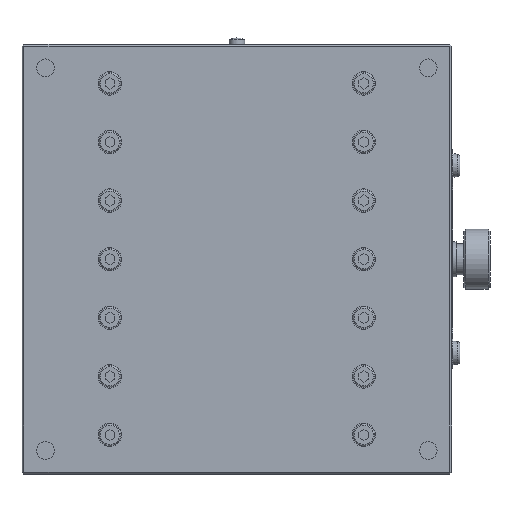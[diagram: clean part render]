
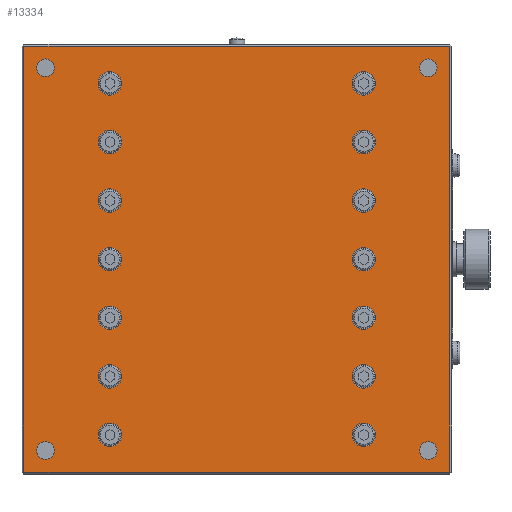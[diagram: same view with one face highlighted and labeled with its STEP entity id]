
A CAD part, front view. The second image highlights one B-rep face of the part: STEP entity #13334.
In plain terms, the highlighted planar face has unit normal (0, -1, 0).
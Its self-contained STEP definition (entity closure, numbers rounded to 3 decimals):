
#407=LINE('',#19798,#1792);
#408=LINE('',#19801,#1793);
#409=LINE('',#19803,#1794);
#410=LINE('',#19805,#1795);
#1792=VECTOR('',#15717,1000.);
#1793=VECTOR('',#15718,1000.);
#1794=VECTOR('',#15719,1000.);
#1795=VECTOR('',#15720,1000.);
#3194=ORIENTED_EDGE('',*,*,#6893,.T.);
#3195=ORIENTED_EDGE('',*,*,#6894,.T.);
#3196=ORIENTED_EDGE('',*,*,#6895,.T.);
#3197=ORIENTED_EDGE('',*,*,#6896,.T.);
#3198=ORIENTED_EDGE('',*,*,#6897,.F.);
#3199=ORIENTED_EDGE('',*,*,#6898,.F.);
#3200=ORIENTED_EDGE('',*,*,#6899,.F.);
#3201=ORIENTED_EDGE('',*,*,#6900,.F.);
#3202=ORIENTED_EDGE('',*,*,#6901,.F.);
#3203=ORIENTED_EDGE('',*,*,#6902,.F.);
#3204=ORIENTED_EDGE('',*,*,#6903,.F.);
#3205=ORIENTED_EDGE('',*,*,#6904,.F.);
#3206=ORIENTED_EDGE('',*,*,#6905,.F.);
#3207=ORIENTED_EDGE('',*,*,#6906,.F.);
#3208=ORIENTED_EDGE('',*,*,#6907,.F.);
#3209=ORIENTED_EDGE('',*,*,#6908,.F.);
#3210=ORIENTED_EDGE('',*,*,#6909,.F.);
#3211=ORIENTED_EDGE('',*,*,#6910,.F.);
#3212=ORIENTED_EDGE('',*,*,#6911,.F.);
#3213=ORIENTED_EDGE('',*,*,#6912,.F.);
#3214=ORIENTED_EDGE('',*,*,#6913,.F.);
#3215=ORIENTED_EDGE('',*,*,#6914,.F.);
#6893=EDGE_CURVE('',#8742,#8743,#407,.T.);
#6894=EDGE_CURVE('',#8743,#8744,#408,.T.);
#6895=EDGE_CURVE('',#8744,#8745,#409,.T.);
#6896=EDGE_CURVE('',#8745,#8742,#410,.T.);
#6897=EDGE_CURVE('',#8746,#8746,#9921,.T.);
#6898=EDGE_CURVE('',#8747,#8747,#9922,.T.);
#6899=EDGE_CURVE('',#8748,#8748,#9923,.T.);
#6900=EDGE_CURVE('',#8749,#8749,#9924,.T.);
#6901=EDGE_CURVE('',#8750,#8750,#9925,.T.);
#6902=EDGE_CURVE('',#8751,#8751,#9926,.T.);
#6903=EDGE_CURVE('',#8752,#8752,#9927,.T.);
#6904=EDGE_CURVE('',#8753,#8753,#9928,.T.);
#6905=EDGE_CURVE('',#8754,#8754,#9929,.T.);
#6906=EDGE_CURVE('',#8755,#8755,#9930,.T.);
#6907=EDGE_CURVE('',#8756,#8756,#9931,.T.);
#6908=EDGE_CURVE('',#8757,#8757,#9932,.T.);
#6909=EDGE_CURVE('',#8758,#8758,#9933,.T.);
#6910=EDGE_CURVE('',#8759,#8759,#9934,.T.);
#6911=EDGE_CURVE('',#8760,#8760,#9935,.T.);
#6912=EDGE_CURVE('',#8761,#8761,#9936,.T.);
#6913=EDGE_CURVE('',#8762,#8762,#9937,.T.);
#6914=EDGE_CURVE('',#8763,#8763,#9938,.T.);
#8742=VERTEX_POINT('',#19799);
#8743=VERTEX_POINT('',#19800);
#8744=VERTEX_POINT('',#19802);
#8745=VERTEX_POINT('',#19804);
#8746=VERTEX_POINT('',#19807);
#8747=VERTEX_POINT('',#19809);
#8748=VERTEX_POINT('',#19811);
#8749=VERTEX_POINT('',#19813);
#8750=VERTEX_POINT('',#19815);
#8751=VERTEX_POINT('',#19817);
#8752=VERTEX_POINT('',#19819);
#8753=VERTEX_POINT('',#19821);
#8754=VERTEX_POINT('',#19823);
#8755=VERTEX_POINT('',#19825);
#8756=VERTEX_POINT('',#19827);
#8757=VERTEX_POINT('',#19829);
#8758=VERTEX_POINT('',#19831);
#8759=VERTEX_POINT('',#19833);
#8760=VERTEX_POINT('',#19835);
#8761=VERTEX_POINT('',#19837);
#8762=VERTEX_POINT('',#19839);
#8763=VERTEX_POINT('',#19841);
#9921=CIRCLE('',#14256,2.25);
#9922=CIRCLE('',#14257,2.25);
#9923=CIRCLE('',#14258,2.25);
#9924=CIRCLE('',#14259,2.25);
#9925=CIRCLE('',#14260,3.);
#9926=CIRCLE('',#14261,3.);
#9927=CIRCLE('',#14262,3.);
#9928=CIRCLE('',#14263,3.);
#9929=CIRCLE('',#14264,3.);
#9930=CIRCLE('',#14265,3.);
#9931=CIRCLE('',#14266,3.);
#9932=CIRCLE('',#14267,3.);
#9933=CIRCLE('',#14268,3.);
#9934=CIRCLE('',#14269,3.);
#9935=CIRCLE('',#14270,3.);
#9936=CIRCLE('',#14271,3.);
#9937=CIRCLE('',#14272,3.);
#9938=CIRCLE('',#14273,3.);
#10390=EDGE_LOOP('',(#3194,#3195,#3196,#3197));
#10391=EDGE_LOOP('',(#3198));
#10392=EDGE_LOOP('',(#3199));
#10393=EDGE_LOOP('',(#3200));
#10394=EDGE_LOOP('',(#3201));
#10395=EDGE_LOOP('',(#3202));
#10396=EDGE_LOOP('',(#3203));
#10397=EDGE_LOOP('',(#3204));
#10398=EDGE_LOOP('',(#3205));
#10399=EDGE_LOOP('',(#3206));
#10400=EDGE_LOOP('',(#3207));
#10401=EDGE_LOOP('',(#3208));
#10402=EDGE_LOOP('',(#3209));
#10403=EDGE_LOOP('',(#3210));
#10404=EDGE_LOOP('',(#3211));
#10405=EDGE_LOOP('',(#3212));
#10406=EDGE_LOOP('',(#3213));
#10407=EDGE_LOOP('',(#3214));
#10408=EDGE_LOOP('',(#3215));
#11571=FACE_BOUND('',#10390,.T.);
#11572=FACE_BOUND('',#10391,.T.);
#11573=FACE_BOUND('',#10392,.T.);
#11574=FACE_BOUND('',#10393,.T.);
#11575=FACE_BOUND('',#10394,.T.);
#11576=FACE_BOUND('',#10395,.T.);
#11577=FACE_BOUND('',#10396,.T.);
#11578=FACE_BOUND('',#10397,.T.);
#11579=FACE_BOUND('',#10398,.T.);
#11580=FACE_BOUND('',#10399,.T.);
#11581=FACE_BOUND('',#10400,.T.);
#11582=FACE_BOUND('',#10401,.T.);
#11583=FACE_BOUND('',#10402,.T.);
#11584=FACE_BOUND('',#10403,.T.);
#11585=FACE_BOUND('',#10404,.T.);
#11586=FACE_BOUND('',#10405,.T.);
#11587=FACE_BOUND('',#10406,.T.);
#11588=FACE_BOUND('',#10407,.T.);
#11589=FACE_BOUND('',#10408,.T.);
#12736=PLANE('',#14255);
#13334=ADVANCED_FACE('',(#11571,#11572,#11573,#11574,#11575,#11576,#11577,
#11578,#11579,#11580,#11581,#11582,#11583,#11584,#11585,#11586,#11587,#11588,
#11589),#12736,.F.);
#14255=AXIS2_PLACEMENT_3D('',#19797,#15715,#15716);
#14256=AXIS2_PLACEMENT_3D('',#19806,#15721,#15722);
#14257=AXIS2_PLACEMENT_3D('',#19808,#15723,#15724);
#14258=AXIS2_PLACEMENT_3D('',#19810,#15725,#15726);
#14259=AXIS2_PLACEMENT_3D('',#19812,#15727,#15728);
#14260=AXIS2_PLACEMENT_3D('',#19814,#15729,#15730);
#14261=AXIS2_PLACEMENT_3D('',#19816,#15731,#15732);
#14262=AXIS2_PLACEMENT_3D('',#19818,#15733,#15734);
#14263=AXIS2_PLACEMENT_3D('',#19820,#15735,#15736);
#14264=AXIS2_PLACEMENT_3D('',#19822,#15737,#15738);
#14265=AXIS2_PLACEMENT_3D('',#19824,#15739,#15740);
#14266=AXIS2_PLACEMENT_3D('',#19826,#15741,#15742);
#14267=AXIS2_PLACEMENT_3D('',#19828,#15743,#15744);
#14268=AXIS2_PLACEMENT_3D('',#19830,#15745,#15746);
#14269=AXIS2_PLACEMENT_3D('',#19832,#15747,#15748);
#14270=AXIS2_PLACEMENT_3D('',#19834,#15749,#15750);
#14271=AXIS2_PLACEMENT_3D('',#19836,#15751,#15752);
#14272=AXIS2_PLACEMENT_3D('',#19838,#15753,#15754);
#14273=AXIS2_PLACEMENT_3D('',#19840,#15755,#15756);
#15715=DIRECTION('',(0.,1.,0.));
#15716=DIRECTION('',(0.,0.,1.));
#15717=DIRECTION('',(-1.,0.,0.));
#15718=DIRECTION('',(0.,0.,-1.));
#15719=DIRECTION('',(1.,0.,0.));
#15720=DIRECTION('',(0.,0.,1.));
#15721=DIRECTION('',(0.,-1.,0.));
#15722=DIRECTION('',(0.,0.,-1.));
#15723=DIRECTION('',(0.,-1.,0.));
#15724=DIRECTION('',(0.,0.,-1.));
#15725=DIRECTION('',(0.,-1.,0.));
#15726=DIRECTION('',(0.,0.,-1.));
#15727=DIRECTION('',(0.,-1.,0.));
#15728=DIRECTION('',(0.,0.,-1.));
#15729=DIRECTION('',(0.,-1.,0.));
#15730=DIRECTION('',(0.,0.,-1.));
#15731=DIRECTION('',(0.,-1.,0.));
#15732=DIRECTION('',(0.,0.,-1.));
#15733=DIRECTION('',(0.,-1.,0.));
#15734=DIRECTION('',(0.,0.,-1.));
#15735=DIRECTION('',(0.,-1.,0.));
#15736=DIRECTION('',(0.,0.,-1.));
#15737=DIRECTION('',(0.,-1.,0.));
#15738=DIRECTION('',(0.,0.,-1.));
#15739=DIRECTION('',(0.,-1.,0.));
#15740=DIRECTION('',(0.,0.,-1.));
#15741=DIRECTION('',(0.,-1.,0.));
#15742=DIRECTION('',(0.,0.,-1.));
#15743=DIRECTION('',(0.,-1.,0.));
#15744=DIRECTION('',(0.,0.,-1.));
#15745=DIRECTION('',(0.,-1.,0.));
#15746=DIRECTION('',(0.,0.,-1.));
#15747=DIRECTION('',(0.,-1.,0.));
#15748=DIRECTION('',(0.,0.,-1.));
#15749=DIRECTION('',(0.,-1.,0.));
#15750=DIRECTION('',(0.,0.,-1.));
#15751=DIRECTION('',(0.,-1.,0.));
#15752=DIRECTION('',(0.,0.,-1.));
#15753=DIRECTION('',(0.,-1.,0.));
#15754=DIRECTION('',(0.,0.,-1.));
#15755=DIRECTION('',(0.,-1.,0.));
#15756=DIRECTION('',(0.,0.,-1.));
#19797=CARTESIAN_POINT('',(-55.,0.,55.));
#19798=CARTESIAN_POINT('',(-55.,0.,54.5));
#19799=CARTESIAN_POINT('',(54.5,0.,54.5));
#19800=CARTESIAN_POINT('',(-54.5,0.,54.5));
#19801=CARTESIAN_POINT('',(-54.5,0.,55.));
#19802=CARTESIAN_POINT('',(-54.5,0.,-54.5));
#19803=CARTESIAN_POINT('',(-55.,0.,-54.5));
#19804=CARTESIAN_POINT('',(54.5,0.,-54.5));
#19805=CARTESIAN_POINT('',(54.5,0.,55.));
#19806=CARTESIAN_POINT('',(49.,0.,-49.));
#19807=CARTESIAN_POINT('',(49.,0.,-51.25));
#19808=CARTESIAN_POINT('',(-49.,0.,49.));
#19809=CARTESIAN_POINT('',(-49.,0.,46.75));
#19810=CARTESIAN_POINT('',(-49.,0.,-49.));
#19811=CARTESIAN_POINT('',(-49.,0.,-51.25));
#19812=CARTESIAN_POINT('',(49.,0.,49.));
#19813=CARTESIAN_POINT('',(49.,0.,46.75));
#19814=CARTESIAN_POINT('',(32.5,0.,-45.));
#19815=CARTESIAN_POINT('',(32.5,0.,-48.));
#19816=CARTESIAN_POINT('',(-32.5,0.,45.));
#19817=CARTESIAN_POINT('',(-32.5,0.,42.));
#19818=CARTESIAN_POINT('',(-32.5,0.,30.));
#19819=CARTESIAN_POINT('',(-32.5,0.,27.));
#19820=CARTESIAN_POINT('',(-32.5,0.,15.));
#19821=CARTESIAN_POINT('',(-32.5,0.,12.));
#19822=CARTESIAN_POINT('',(32.5,0.,-30.));
#19823=CARTESIAN_POINT('',(32.5,0.,-33.));
#19824=CARTESIAN_POINT('',(32.5,0.,-15.));
#19825=CARTESIAN_POINT('',(32.5,0.,-18.));
#19826=CARTESIAN_POINT('',(32.5,0.,0.));
#19827=CARTESIAN_POINT('',(32.5,0.,-3.));
#19828=CARTESIAN_POINT('',(32.5,0.,15.));
#19829=CARTESIAN_POINT('',(32.5,0.,12.));
#19830=CARTESIAN_POINT('',(-32.5,0.,0.));
#19831=CARTESIAN_POINT('',(-32.5,0.,-3.));
#19832=CARTESIAN_POINT('',(-32.5,0.,-15.));
#19833=CARTESIAN_POINT('',(-32.5,0.,-18.));
#19834=CARTESIAN_POINT('',(-32.5,0.,-30.));
#19835=CARTESIAN_POINT('',(-32.5,0.,-33.));
#19836=CARTESIAN_POINT('',(-32.5,0.,-45.));
#19837=CARTESIAN_POINT('',(-32.5,0.,-48.));
#19838=CARTESIAN_POINT('',(32.5,0.,30.));
#19839=CARTESIAN_POINT('',(32.5,0.,27.));
#19840=CARTESIAN_POINT('',(32.5,0.,45.));
#19841=CARTESIAN_POINT('',(32.5,0.,42.));
